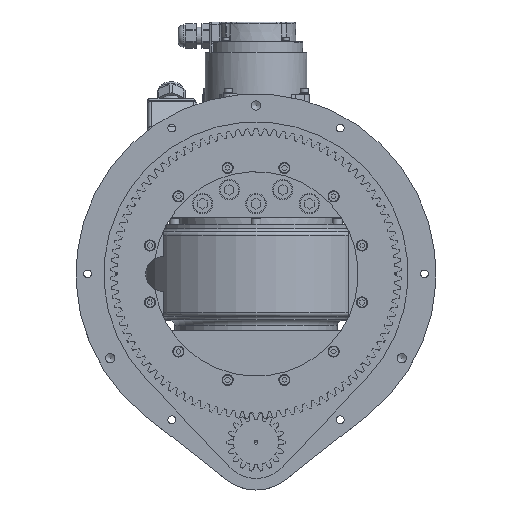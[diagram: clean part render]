
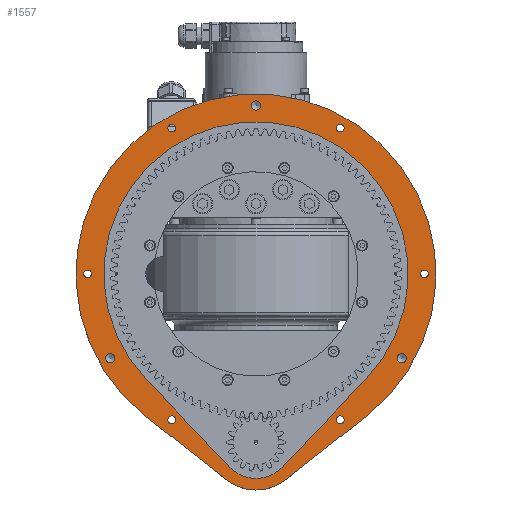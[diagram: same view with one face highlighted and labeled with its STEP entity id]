
A CAD part, top view. The second image highlights one B-rep face of the part: STEP entity #1557.
In plain terms, the highlighted planar face has unit normal (0, 0, 1).
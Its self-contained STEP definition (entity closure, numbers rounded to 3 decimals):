
#1557=ADVANCED_FACE('',(#6383,#6384,#6385,#6386,#6387,#6388,#6389,#6390,#6391,#6392,#6393),#6394,.F.);
#6383=FACE_BOUND('',#14659,.T.);
#6384=FACE_BOUND('',#14660,.T.);
#6385=FACE_BOUND('',#14661,.T.);
#6386=FACE_BOUND('',#14662,.T.);
#6387=FACE_BOUND('',#14663,.T.);
#6388=FACE_BOUND('',#14664,.T.);
#6389=FACE_BOUND('',#14665,.T.);
#6390=FACE_BOUND('',#14666,.T.);
#6391=FACE_BOUND('',#14667,.T.);
#6392=FACE_BOUND('',#14668,.T.);
#6393=FACE_OUTER_BOUND('',#14669,.T.);
#6394=PLANE('',#14670);
#14659=EDGE_LOOP('',(#36667));
#14660=EDGE_LOOP('',(#36668));
#14661=EDGE_LOOP('',(#36669));
#14662=EDGE_LOOP('',(#36670));
#14663=EDGE_LOOP('',(#36671));
#14664=EDGE_LOOP('',(#36672));
#14665=EDGE_LOOP('',(#36673));
#14666=EDGE_LOOP('',(#36674));
#14667=EDGE_LOOP('',(#36675));
#14668=EDGE_LOOP('',(#36676,#36677,#36678,#36679));
#14669=EDGE_LOOP('',(#36680,#36681,#36682,#36683));
#14670=AXIS2_PLACEMENT_3D('',#36684,#36685,#36686);
#36667=ORIENTED_EDGE('',*,*,#52725,.T.);
#36668=ORIENTED_EDGE('',*,*,#52724,.T.);
#36669=ORIENTED_EDGE('',*,*,#52541,.T.);
#36670=ORIENTED_EDGE('',*,*,#52542,.T.);
#36671=ORIENTED_EDGE('',*,*,#52543,.T.);
#36672=ORIENTED_EDGE('',*,*,#52544,.T.);
#36673=ORIENTED_EDGE('',*,*,#52545,.T.);
#36674=ORIENTED_EDGE('',*,*,#52548,.T.);
#36675=ORIENTED_EDGE('',*,*,#52551,.T.);
#36676=ORIENTED_EDGE('',*,*,#52705,.T.);
#36677=ORIENTED_EDGE('',*,*,#52710,.T.);
#36678=ORIENTED_EDGE('',*,*,#52713,.T.);
#36679=ORIENTED_EDGE('',*,*,#52715,.T.);
#36680=ORIENTED_EDGE('',*,*,#52440,.F.);
#36681=ORIENTED_EDGE('',*,*,#52469,.F.);
#36682=ORIENTED_EDGE('',*,*,#52367,.F.);
#36683=ORIENTED_EDGE('',*,*,#52370,.F.);
#36684=CARTESIAN_POINT('',(0.0,0.0,0.0));
#36685=DIRECTION('',(0.0,0.0,-1.0));
#36686=DIRECTION('',(0.,1.0,0.0));
#52367=EDGE_CURVE('',#62624,#62616,#62626,.T.);
#52370=EDGE_CURVE('',#62629,#62624,#62631,.T.);
#52440=EDGE_CURVE('',#62763,#62629,#62765,.T.);
#52469=EDGE_CURVE('',#62616,#62763,#62822,.T.);
#52541=EDGE_CURVE('',#62936,#62936,#62937,.T.);
#52542=EDGE_CURVE('',#62938,#62938,#62939,.T.);
#52543=EDGE_CURVE('',#62940,#62940,#62941,.T.);
#52544=EDGE_CURVE('',#62942,#62942,#62943,.T.);
#52545=EDGE_CURVE('',#62944,#62944,#62945,.T.);
#52548=EDGE_CURVE('',#62948,#62948,#62949,.T.);
#52551=EDGE_CURVE('',#62952,#62952,#62953,.T.);
#52705=EDGE_CURVE('',#63212,#63209,#63213,.T.);
#52710=EDGE_CURVE('',#63209,#63219,#63221,.T.);
#52713=EDGE_CURVE('',#63219,#63224,#63226,.T.);
#52715=EDGE_CURVE('',#63224,#63212,#63228,.T.);
#52724=EDGE_CURVE('',#63245,#63245,#63246,.T.);
#52725=EDGE_CURVE('',#63247,#63247,#63248,.T.);
#62616=VERTEX_POINT('',#78974);
#62624=VERTEX_POINT('',#79017);
#62626=LINE('',#79020,#79021);
#62629=VERTEX_POINT('',#79024);
#62631=CIRCLE('',#79027,155.0);
#62763=VERTEX_POINT('',#79217);
#62765=LINE('',#79220,#79221);
#62822=CIRCLE('',#79290,41.0);
#62936=VERTEX_POINT('',#79673);
#62937=CIRCLE('',#79674,3.375);
#62938=VERTEX_POINT('',#79675);
#62939=CIRCLE('',#79676,3.375);
#62940=VERTEX_POINT('',#79677);
#62941=CIRCLE('',#79678,3.375);
#62942=VERTEX_POINT('',#79679);
#62943=CIRCLE('',#79680,3.375);
#62944=VERTEX_POINT('',#79681);
#62945=CIRCLE('',#79682,4.0);
#62948=VERTEX_POINT('',#79685);
#62949=CIRCLE('',#79686,4.0);
#62952=VERTEX_POINT('',#79689);
#62953=CIRCLE('',#79690,4.0);
#63209=VERTEX_POINT('',#80019);
#63212=VERTEX_POINT('',#80023);
#63213=LINE('',#80024,#80025);
#63219=VERTEX_POINT('',#80033);
#63221=CIRCLE('',#80036,131.0);
#63224=VERTEX_POINT('',#80040);
#63226=LINE('',#80043,#80044);
#63228=CIRCLE('',#80046,31.0);
#63245=VERTEX_POINT('',#80063);
#63246=CIRCLE('',#80064,3.375);
#63247=VERTEX_POINT('',#80065);
#63248=CIRCLE('',#80066,3.375);
#78974=CARTESIAN_POINT('',(25.336,-177.234,0.0));
#79017=CARTESIAN_POINT('',(95.784,-121.862,0.0));
#79020=CARTESIAN_POINT('',(95.784,-121.862,0.0));
#79021=VECTOR('',#97730,1.0);
#79024=CARTESIAN_POINT('',(-95.784,-121.862,0.0));
#79027=AXIS2_PLACEMENT_3D('',#97735,#97736,#97737);
#79217=CARTESIAN_POINT('',(-25.336,-177.234,0.0));
#79220=CARTESIAN_POINT('',(-25.336,-177.234,0.0));
#79221=VECTOR('',#97890,1.0);
#79290=AXIS2_PLACEMENT_3D('',#97958,#97959,#97960);
#79673=CARTESIAN_POINT('',(-70.813,122.651,0.0));
#79674=AXIS2_PLACEMENT_3D('',#98092,#98093,#98094);
#79675=CARTESIAN_POINT('',(-141.625,0.,0.0));
#79676=AXIS2_PLACEMENT_3D('',#98095,#98096,#98097);
#79677=CARTESIAN_POINT('',(-70.813,-122.651,0.0));
#79678=AXIS2_PLACEMENT_3D('',#98098,#98099,#98100);
#79679=CARTESIAN_POINT('',(70.813,-122.651,0.0));
#79680=AXIS2_PLACEMENT_3D('',#98101,#98102,#98103);
#79681=CARTESIAN_POINT('',(-4.,145.0,0.0));
#79682=AXIS2_PLACEMENT_3D('',#98104,#98105,#98106);
#79685=CARTESIAN_POINT('',(-123.574,-75.964,0.0));
#79686=AXIS2_PLACEMENT_3D('',#98110,#98111,#98112);
#79689=CARTESIAN_POINT('',(127.574,-69.036,0.0));
#79690=AXIS2_PLACEMENT_3D('',#98116,#98117,#98118);
#80019=CARTESIAN_POINT('',(-94.862,-90.345,0.));
#80023=CARTESIAN_POINT('',(-22.448,-166.379,0.));
#80024=CARTESIAN_POINT('',(-22.448,-166.379,0.));
#80025=VECTOR('',#98427,1.0);
#80033=CARTESIAN_POINT('',(94.862,-90.345,0.));
#80036=AXIS2_PLACEMENT_3D('',#98434,#98435,#98436);
#80040=CARTESIAN_POINT('',(22.448,-166.379,0.));
#80043=CARTESIAN_POINT('',(94.862,-90.345,0.));
#80044=VECTOR('',#98439,1.0);
#80046=AXIS2_PLACEMENT_3D('',#98443,#98444,#98445);
#80063=CARTESIAN_POINT('',(70.813,122.651,0.0));
#80064=AXIS2_PLACEMENT_3D('',#98470,#98471,#98472);
#80065=CARTESIAN_POINT('',(141.625,0.,0.0));
#80066=AXIS2_PLACEMENT_3D('',#98473,#98474,#98475);
#97730=DIRECTION('',(-0.786,-0.618,0.0));
#97735=CARTESIAN_POINT('',(0.0,0.0,0.0));
#97736=DIRECTION('',(0.0,0.0,-1.0));
#97737=DIRECTION('',(-1.0,0.,0.0));
#97890=DIRECTION('',(-0.786,0.618,0.0));
#97958=CARTESIAN_POINT('',(0.,-145.0,0.0));
#97959=DIRECTION('',(-0.0,0.0,-1.0));
#97960=DIRECTION('',(-1.0,0.,0.0));
#98092=CARTESIAN_POINT('',(-72.5,125.574,0.0));
#98093=DIRECTION('',(0.0,0.0,-1.0));
#98094=DIRECTION('',(0.5,-0.866,0.0));
#98095=CARTESIAN_POINT('',(-145.0,0.,0.0));
#98096=DIRECTION('',(0.0,0.0,-1.0));
#98097=DIRECTION('',(1.0,0.,0.0));
#98098=CARTESIAN_POINT('',(-72.5,-125.574,0.0));
#98099=DIRECTION('',(0.0,0.0,-1.0));
#98100=DIRECTION('',(0.5,0.866,0.0));
#98101=CARTESIAN_POINT('',(72.5,-125.574,0.0));
#98102=DIRECTION('',(0.0,0.0,-1.0));
#98103=DIRECTION('',(-0.5,0.866,0.0));
#98104=CARTESIAN_POINT('',(0.,145.0,0.0));
#98105=DIRECTION('',(0.0,0.0,-1.0));
#98106=DIRECTION('',(-1.0,0.,0.0));
#98110=CARTESIAN_POINT('',(-125.574,-72.5,0.0));
#98111=DIRECTION('',(0.0,0.0,-1.0));
#98112=DIRECTION('',(0.5,-0.866,0.0));
#98116=CARTESIAN_POINT('',(125.574,-72.5,0.0));
#98117=DIRECTION('',(0.0,0.0,-1.0));
#98118=DIRECTION('',(0.5,0.866,0.0));
#98427=DIRECTION('',(-0.69,0.724,0.0));
#98434=CARTESIAN_POINT('',(0.,0.,0.));
#98435=DIRECTION('',(0.0,0.0,-1.0));
#98436=DIRECTION('',(-1.0,0.,0.0));
#98439=DIRECTION('',(-0.69,-0.724,0.0));
#98443=CARTESIAN_POINT('',(0.,-145.0,0.));
#98444=DIRECTION('',(0.0,0.0,-1.0));
#98445=DIRECTION('',(-1.0,0.,0.0));
#98470=CARTESIAN_POINT('',(72.5,125.574,0.0));
#98471=DIRECTION('',(-0.0,0.0,-1.0));
#98472=DIRECTION('',(-0.5,-0.866,0.0));
#98473=CARTESIAN_POINT('',(145.0,0.,0.0));
#98474=DIRECTION('',(0.0,0.0,-1.0));
#98475=DIRECTION('',(-1.0,0.,0.0));
